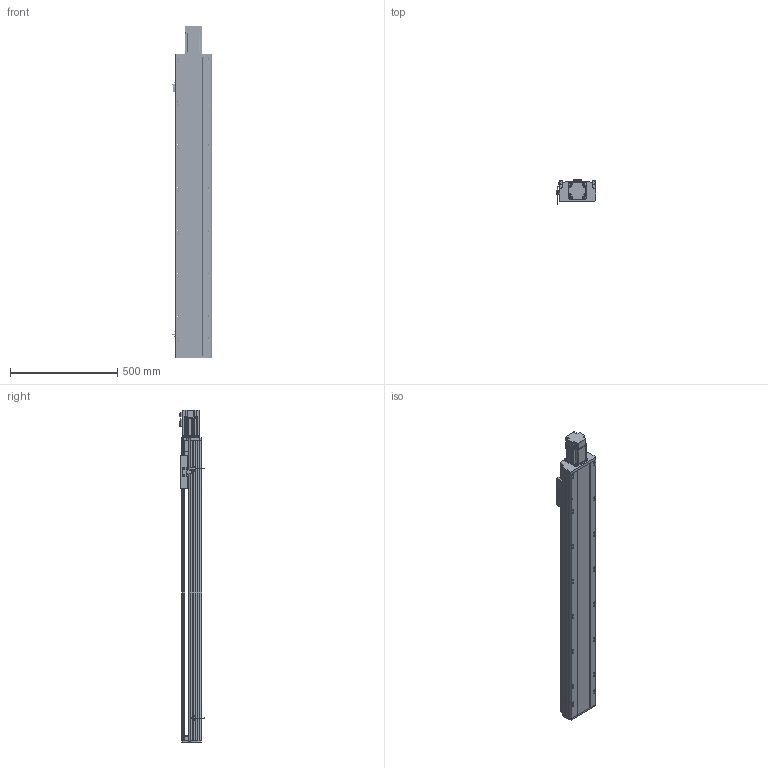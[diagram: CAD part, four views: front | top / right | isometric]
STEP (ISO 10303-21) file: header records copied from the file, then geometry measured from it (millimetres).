
FILE_DESCRIPTION (( 'STEP AP214' ), '1' );
FILE_NAME ('CTH170-1150.STEP', '2019-11-25T09:04:31', ( '微软用户' ), ( '微软中国' ), 'SwSTEP 2.0', 'SolidWorks 2017', '' );
FILE_SCHEMA (( 'AUTOMOTIVE_DESIGN' ));
Length unit declared in the file: millimetre
Products named in the file (32): M5-L10囀鞠褒蹟佪; 坶踡蹟簽M15x1; EGH20CA_BLOCK; 潔路遠COL15-A; EG20_RAIL; MISUMI_B7002-DB_盄俶絳砃粣; 170賑怢; BEARING_MISUMI_B7002-DB_盄俶絳砃粣; 170裔啣^CTH170-L10-200; 錨璃8^蚾饜极3_CTH170-L10-200; 錨璃2; 复件 轴承座^装配体3_CTH170-L10-200; 佪話盓傅釱^CTH170-L10-200; CTH170-1150; M5-L16囀鞠褒蹟佪; 遣喳蝶15x12x8-BR L; 支撑座^丝杠支撑座_CTH170-L10-200; B6002Z; _C-BSST2005_n; SFS2005-411-SZC; SFH2010佪裝; M3-L8囀鞠褒蹟佪; 80EMA-016A; EE-SX672峚倰換覜ん; 170萇儂啣; CT17耀郪-覜茼んえ; 170傷啣; M6-L20囀鞠褒蹟佪; EGH20CA; 蚾饜极3^CTH170-L10-200; M5-L20囀鞠褒蹟佪-BR L; M4-L10囀鞠褒蹟佪-BR L
Assembly tree (79 placements, depth 4):
  CTH170-1150
    錨璃2
    170裔啣^CTH170-L10-200
    170賑怢
    EGH20CA  x2
      EG20_RAIL
      EGH20CA_BLOCK
      M5-L10囀鞠褒蹟佪
      M5-L20囀鞠褒蹟佪-BR L
    170傷啣
    170萇儂啣
    80EMA-016A
    SFS2005-411-SZC
      SFH2010佪裝
    _C-BSST2005_n
    佪話盓傅釱^CTH170-L10-200
      B6002Z
      支撑座^丝杠支撑座_CTH170-L10-200
      遣喳蝶15x12x8-BR L  x2
      M5-L16囀鞠褒蹟佪  x2
    蚾饜极3^CTH170-L10-200
      复件 轴承座^装配体3_CTH170-L10-200
      錨璃8^蚾饜极3_CTH170-L10-200
      MISUMI_B7002-DB_盄俶絳砃粣
        BEARING_MISUMI_B7002-DB_盄俶絳砃粣  x2
      潔路遠COL15-A  x2
      坶踡蹟簽M15x1
      M5-L16囀鞠褒蹟佪  x6
      M4-L10囀鞠褒蹟佪-BR L  x4
    遣喳蝶15x12x8-BR L  x2
    M6-L20囀鞠褒蹟佪  x4
    M4-L10囀鞠褒蹟佪-BR L  x10
    M5-L16囀鞠褒蹟佪  x4
    CT17耀郪-覜茼んえ
    EE-SX672峚倰換覜ん  x2
    M3-L8囀鞠褒蹟佪  x4
Bounding box: 183.7 x 117.95 x 1546 mm (x, y, z)
Volume: 8546776.8 mm3; surface area: 2693399.8 mm2
Topology: 91 solids, 92 shells, 5851 faces, 15433 edges, 9830 vertices
Faces by surface type: plane 3154, cylinder 1650, cone 665, bspline 342, torus 40
Entity records: 106854 total; most frequent: CARTESIAN_POINT 22671, ORIENTED_EDGE 15384, DIRECTION 15051, EDGE_CURVE 7692, AXIS2_PLACEMENT_3D 5300, VERTEX_POINT 5002, VECTOR 4451, LINE 4451
